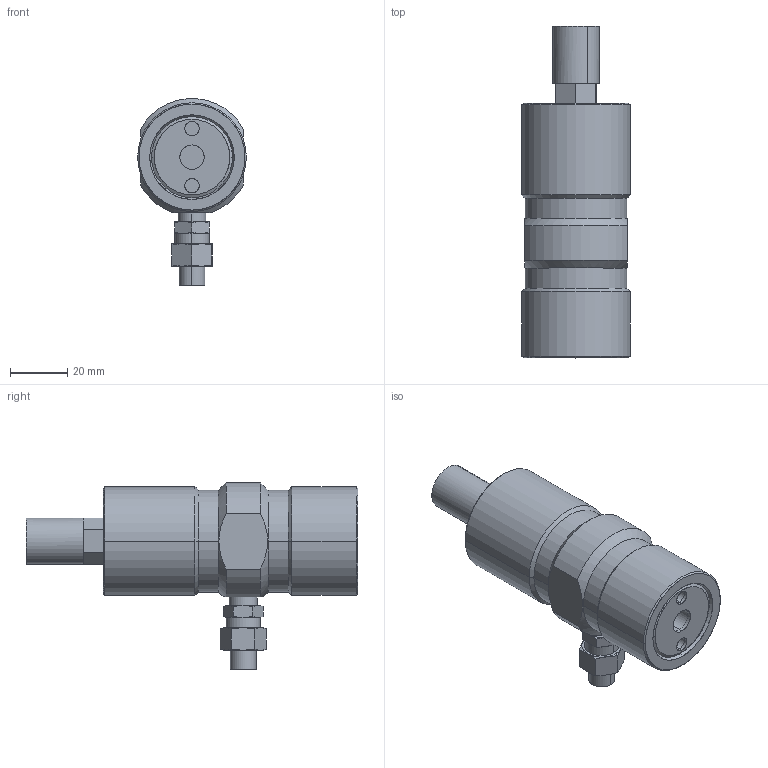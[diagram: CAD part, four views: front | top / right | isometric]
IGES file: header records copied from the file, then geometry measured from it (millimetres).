
Start section: SolidWorks IGES file using analytic representation for surfaces
Global section: file name: V:\WORK\08133\HP 寸法図\piston\EPV18\test_B61000F-000_defeature.IGS,15; native system: HSolidWorks 2018; preprocessor: SolidWorks 2018; author: n-udagawa; date: 230117.115226; units: millimetre
Bounding box: 38 x 116 x 65.23 mm (x, y, z)
Surface area: 16942.9 mm2 (no closed solid volume)
Topology: 0 solids, 0 shells, 105 faces, 2043 edges, 2271 vertices
Faces by surface type: revolution 62, bspline 43
